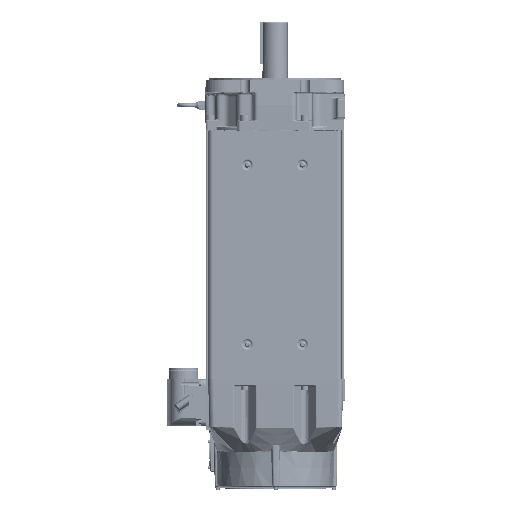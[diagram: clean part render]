
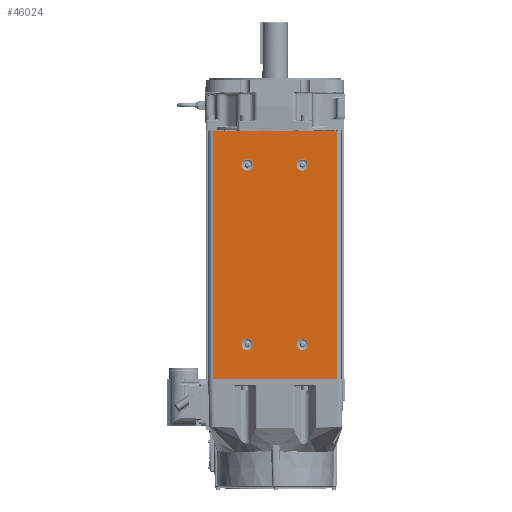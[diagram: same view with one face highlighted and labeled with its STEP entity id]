
A CAD part, left-side view. The second image highlights one B-rep face of the part: STEP entity #46024.
In plain terms, the highlighted planar face has unit normal (-1, 0, 0).
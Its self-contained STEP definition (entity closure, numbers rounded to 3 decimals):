
#44788=DIRECTION('',(0.,0.,-1.));
#44789=VECTOR('',#44788,467.3);
#44790=CARTESIAN_POINT('',(0.,-117.25,233.65));
#44791=LINE('',#44790,#44789);
#44882=DIRECTION('',(0.,1.,0.));
#44883=VECTOR('',#44882,234.5);
#44884=CARTESIAN_POINT('',(0.,-117.25,233.65));
#44885=LINE('',#44884,#44883);
#44894=DIRECTION('',(0.,0.,-1.));
#44895=VECTOR('',#44894,467.3);
#44896=CARTESIAN_POINT('',(0.,117.25,233.65));
#44897=LINE('',#44896,#44895);
#44898=CARTESIAN_POINT('',(0.,-52.,169.15));
#44899=DIRECTION('',(-1.,0.,0.));
#44900=DIRECTION('',(0.,0.,1.));
#44901=AXIS2_PLACEMENT_3D('',#44898,#44899,#44900);
#44903=CARTESIAN_POINT('',(0.,-52.,169.15));
#44904=DIRECTION('',(-1.,0.,0.));
#44905=DIRECTION('',(0.,0.,-1.));
#44906=AXIS2_PLACEMENT_3D('',#44903,#44904,#44905);
#44908=CARTESIAN_POINT('',(0.,-52.,-169.15));
#44909=DIRECTION('',(-1.,0.,0.));
#44910=DIRECTION('',(0.,0.,1.));
#44911=AXIS2_PLACEMENT_3D('',#44908,#44909,#44910);
#44913=CARTESIAN_POINT('',(0.,-52.,-169.15));
#44914=DIRECTION('',(-1.,0.,0.));
#44915=DIRECTION('',(0.,0.,-1.));
#44916=AXIS2_PLACEMENT_3D('',#44913,#44914,#44915);
#44918=CARTESIAN_POINT('',(0.,52.,169.15));
#44919=DIRECTION('',(-1.,0.,0.));
#44920=DIRECTION('',(0.,0.,1.));
#44921=AXIS2_PLACEMENT_3D('',#44918,#44919,#44920);
#44923=CARTESIAN_POINT('',(0.,52.,169.15));
#44924=DIRECTION('',(-1.,0.,0.));
#44925=DIRECTION('',(0.,0.,-1.));
#44926=AXIS2_PLACEMENT_3D('',#44923,#44924,#44925);
#44928=CARTESIAN_POINT('',(0.,52.,-169.15));
#44929=DIRECTION('',(-1.,0.,0.));
#44930=DIRECTION('',(0.,0.,1.));
#44931=AXIS2_PLACEMENT_3D('',#44928,#44929,#44930);
#44933=CARTESIAN_POINT('',(0.,52.,-169.15));
#44934=DIRECTION('',(-1.,0.,0.));
#44935=DIRECTION('',(0.,0.,-1.));
#44936=AXIS2_PLACEMENT_3D('',#44933,#44934,#44935);
#44938=DIRECTION('',(0.,1.,0.));
#44939=VECTOR('',#44938,234.5);
#44940=CARTESIAN_POINT('',(0.,-117.25,-233.65));
#44941=LINE('',#44940,#44939);
#45602=CARTESIAN_POINT('',(0.,-117.25,233.65));
#45603=CARTESIAN_POINT('',(0.,117.25,233.65));
#45604=VERTEX_POINT('',#45602);
#45605=VERTEX_POINT('',#45603);
#45614=CARTESIAN_POINT('',(0.,-117.25,-233.65));
#45615=CARTESIAN_POINT('',(0.,117.25,-233.65));
#45616=VERTEX_POINT('',#45614);
#45617=VERTEX_POINT('',#45615);
#45658=CARTESIAN_POINT('',(0.,-52.,180.135));
#45659=CARTESIAN_POINT('',(0.,-52.,158.165));
#45660=VERTEX_POINT('',#45658);
#45661=VERTEX_POINT('',#45659);
#45698=CARTESIAN_POINT('',(0.,-52.,-158.165));
#45699=CARTESIAN_POINT('',(0.,-52.,-180.135));
#45700=VERTEX_POINT('',#45698);
#45701=VERTEX_POINT('',#45699);
#45738=CARTESIAN_POINT('',(0.,52.,180.135));
#45739=CARTESIAN_POINT('',(0.,52.,158.165));
#45740=VERTEX_POINT('',#45738);
#45741=VERTEX_POINT('',#45739);
#45778=CARTESIAN_POINT('',(0.,52.,-158.165));
#45779=CARTESIAN_POINT('',(0.,52.,-180.135));
#45780=VERTEX_POINT('',#45778);
#45781=VERTEX_POINT('',#45779);
#45987=CARTESIAN_POINT('',(0.,117.25,233.65));
#45988=DIRECTION('',(-1.,0.,0.));
#45989=DIRECTION('',(0.,-1.,0.));
#45990=AXIS2_PLACEMENT_3D('',#45987,#45988,#45989);
#45991=PLANE('',#45990);
#45992=ORIENTED_EDGE('',*,*,#45978,.F.);
#45993=ORIENTED_EDGE('',*,*,#45861,.T.);
#45995=ORIENTED_EDGE('',*,*,#45994,.T.);
#45997=ORIENTED_EDGE('',*,*,#45996,.F.);
#45998=EDGE_LOOP('',(#45992,#45993,#45995,#45997));
#45999=FACE_OUTER_BOUND('',#45998,.F.);
#46001=ORIENTED_EDGE('',*,*,#46000,.T.);
#46003=ORIENTED_EDGE('',*,*,#46002,.T.);
#46004=EDGE_LOOP('',(#46001,#46003));
#46005=FACE_BOUND('',#46004,.F.);
#46007=ORIENTED_EDGE('',*,*,#46006,.T.);
#46009=ORIENTED_EDGE('',*,*,#46008,.T.);
#46010=EDGE_LOOP('',(#46007,#46009));
#46011=FACE_BOUND('',#46010,.F.);
#46013=ORIENTED_EDGE('',*,*,#46012,.T.);
#46015=ORIENTED_EDGE('',*,*,#46014,.T.);
#46016=EDGE_LOOP('',(#46013,#46015));
#46017=FACE_BOUND('',#46016,.F.);
#46019=ORIENTED_EDGE('',*,*,#46018,.T.);
#46021=ORIENTED_EDGE('',*,*,#46020,.T.);
#46022=EDGE_LOOP('',(#46019,#46021));
#46023=FACE_BOUND('',#46022,.F.);
#46024=ADVANCED_FACE('',(#45999,#46005,#46011,#46017,#46023),#45991,.T.);
#44902=CIRCLE('',#44901,10.985);
#44907=CIRCLE('',#44906,10.985);
#44912=CIRCLE('',#44911,10.985);
#44917=CIRCLE('',#44916,10.985);
#44922=CIRCLE('',#44921,10.985);
#44927=CIRCLE('',#44926,10.985);
#44932=CIRCLE('',#44931,10.985);
#44937=CIRCLE('',#44936,10.985);
#45861=EDGE_CURVE('',#45604,#45616,#44791,.T.);
#45978=EDGE_CURVE('',#45604,#45605,#44885,.T.);
#45994=EDGE_CURVE('',#45616,#45617,#44941,.T.);
#45996=EDGE_CURVE('',#45605,#45617,#44897,.T.);
#46000=EDGE_CURVE('',#45660,#45661,#44902,.T.);
#46002=EDGE_CURVE('',#45661,#45660,#44907,.T.);
#46006=EDGE_CURVE('',#45700,#45701,#44912,.T.);
#46008=EDGE_CURVE('',#45701,#45700,#44917,.T.);
#46012=EDGE_CURVE('',#45740,#45741,#44922,.T.);
#46014=EDGE_CURVE('',#45741,#45740,#44927,.T.);
#46018=EDGE_CURVE('',#45780,#45781,#44932,.T.);
#46020=EDGE_CURVE('',#45781,#45780,#44937,.T.);
